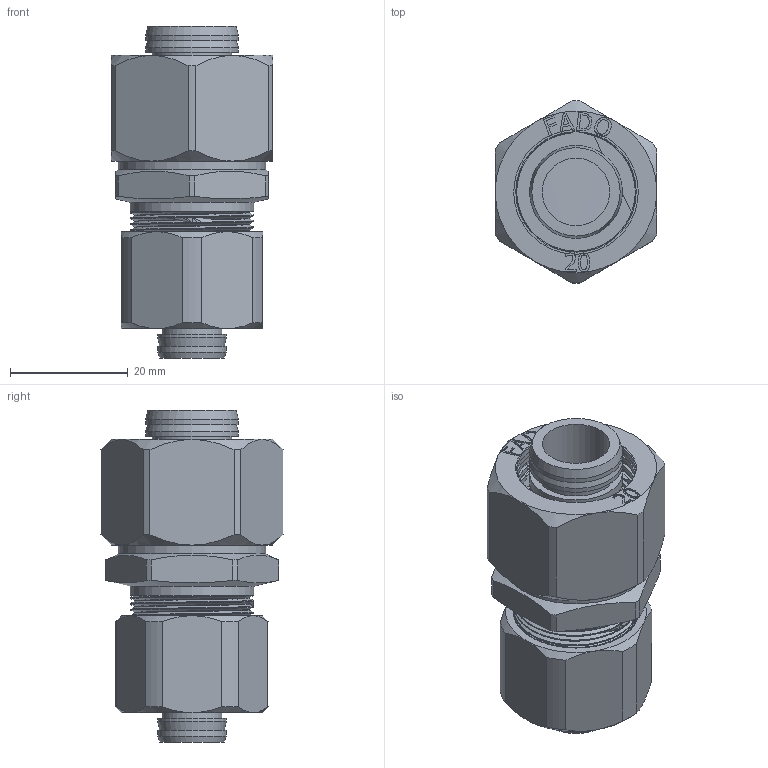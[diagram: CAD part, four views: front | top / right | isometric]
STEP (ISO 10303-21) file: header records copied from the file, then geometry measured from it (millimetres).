
FILE_DESCRIPTION(/* description */ (''),/* implementation_level */ '2;1');
FILE_NAME(/* name */ 'C:\Users\Doom\Desktop\Фадотех\Обжим\RFM02 20X16 30.03.2020\RFM02 20X16 30.03.2020.stp',/* time_stamp */ '2022-06-01T19:40:36+03:00',/* author */ ('Doom'),/* organization */ (''),/* preprocessor_version */ 'ST-DEVELOPER v18',/* originating_system */ 'Autodesk Inventor 2020',/* authorisation */ '');
FILE_SCHEMA (('AUTOMOTIVE_DESIGN { 1 0 10303 214 3 1 1 }'));
Length unit declared in the file: millimetre
Products named in the file (8): RFM02 20X16 30.03.2020; RFM02 20X16 30.03.2020_1; Olive 16 15.02.2020; Olive 20 15.02.2020; FADO MC Socket-20 15.02.2020; FADO MC Socket-16 15.02.2020; FADO MC Nut-20 15.02.2020; FADO MC Nut-16 15.02.2020
Assembly tree (7 placements, depth 2):
  RFM02 20X16 30.03.2020
    RFM02 20X16 30.03.2020_1
    Olive 16 15.02.2020
    Olive 20 15.02.2020
    FADO MC Socket-20 15.02.2020
    FADO MC Socket-16 15.02.2020
    FADO MC Nut-20 15.02.2020
    FADO MC Nut-16 15.02.2020
Bounding box: 27.5 x 31 x 56.5 mm (x, y, z)
Volume: 18351.7 mm3; surface area: 26959.8 mm2
Topology: 11 solids, 11 shells, 983 faces, 2684 edges, 1801 vertices
Faces by surface type: bspline 498, plane 272, cylinder 160, cone 51, torus 2
Full cylindrical faces by diameter (mm): 8.5 x1, 10.2 x2, 11.5 x1, 11.7 x4, 12.6 x1, 13.531 x2, 14.5 x1, 14.7 x2, 15.5 x1, 15.802 x5, 16.5 x1, 17.391 x1, 17.5 x1, 18 x1, 19 x1, 19.499 x2, 19.5 x1, 19.867 x12, 20.5 x1, 20.982 x10, 21.35 x2, 22.776 x8, 23 x1, 23.561 x2, 24.1 x1, 25 x2, 25.043 x9
Entity records: 58459 total; most frequent: CARTESIAN_POINT 36580, ORIENTED_EDGE 5352, DIRECTION 3001, EDGE_CURVE 2676, VERTEX_POINT 1797, B_SPLINE_CURVE_WITH_KNOTS 1104, EDGE_LOOP 1083, LINE 1007
